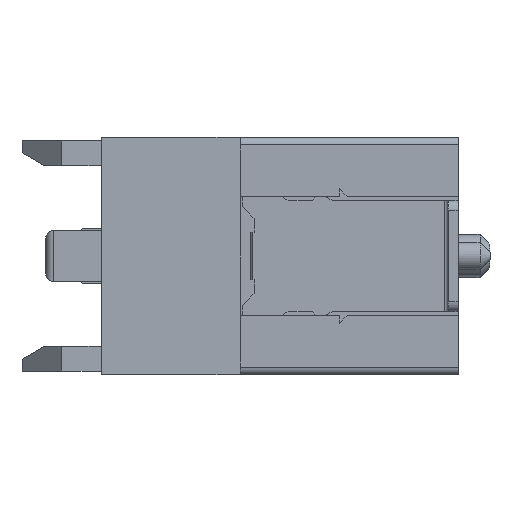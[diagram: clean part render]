
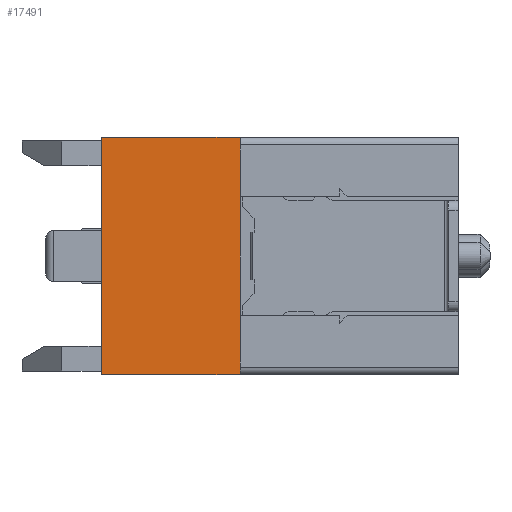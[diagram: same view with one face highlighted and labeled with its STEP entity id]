
A CAD part, left-side view. The second image highlights one B-rep face of the part: STEP entity #17491.
In plain terms, the highlighted planar face has unit normal (-1, 0, 0).
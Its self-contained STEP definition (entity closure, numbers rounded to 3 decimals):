
#39 = LINE ( 'NONE', #15047, #3822 ) ;
#365 = CARTESIAN_POINT ( 'NONE',  ( -18.55, 5.5, -9.338 ) ) ;
#3822 = VECTOR ( 'NONE', #17763, 1000. ) ;
#4642 = AXIS2_PLACEMENT_3D ( 'NONE', #365, #5804, #21670 ) ;
#5613 = DIRECTION ( 'NONE',  ( 0., 1., 0. ) ) ;
#5804 = DIRECTION ( 'NONE',  ( 1., 0., 0. ) ) ;
#5937 = VECTOR ( 'NONE', #19798, 1000. ) ;
#6690 = ORIENTED_EDGE ( 'NONE', *, *, #10208, .T. ) ;
#6709 = CARTESIAN_POINT ( 'NONE',  ( -18.55, 9., -3. ) ) ;
#7366 = EDGE_CURVE ( 'NONE', #16952, #22765, #18727, .T. ) ;
#9341 = ORIENTED_EDGE ( 'NONE', *, *, #20195, .F. ) ;
#10208 = EDGE_CURVE ( 'NONE', #16952, #14684, #18441, .T. ) ;
#13810 = EDGE_CURVE ( 'NONE', #14684, #19360, #31752, .T. ) ;
#14684 = VERTEX_POINT ( 'NONE', #26505 ) ;
#15047 = CARTESIAN_POINT ( 'NONE',  ( -18.55, 9., -9.338 ) ) ;
#16952 = VERTEX_POINT ( 'NONE', #19287 ) ;
#17179 = VECTOR ( 'NONE', #18579, 1000. ) ;
#17491 = ADVANCED_FACE ( 'NONE', ( #31300 ), #22134, .F. ) ;
#17763 = DIRECTION ( 'NONE',  ( 0., 0., 1. ) ) ;
#18441 = LINE ( 'NONE', #29128, #17179 ) ;
#18579 = DIRECTION ( 'NONE',  ( 0., 0., 1. ) ) ;
#18727 = LINE ( 'NONE', #33110, #34770 ) ;
#19287 = CARTESIAN_POINT ( 'NONE',  ( -18.55, 5.5, -3. ) ) ;
#19360 = VERTEX_POINT ( 'NONE', #27766 ) ;
#19677 = CARTESIAN_POINT ( 'NONE',  ( -18.55, 5.5, 3. ) ) ;
#19798 = DIRECTION ( 'NONE',  ( 0., 1., 0. ) ) ;
#20195 = EDGE_CURVE ( 'NONE', #22765, #19360, #39, .T. ) ;
#21670 = DIRECTION ( 'NONE',  ( 0., 0., -1. ) ) ;
#22134 = PLANE ( 'NONE',  #4642 ) ;
#22463 = ORIENTED_EDGE ( 'NONE', *, *, #13810, .T. ) ;
#22613 = ORIENTED_EDGE ( 'NONE', *, *, #7366, .F. ) ;
#22765 = VERTEX_POINT ( 'NONE', #6709 ) ;
#26505 = CARTESIAN_POINT ( 'NONE',  ( -18.55, 5.5, 3. ) ) ;
#27427 = EDGE_LOOP ( 'NONE', ( #6690, #22463, #9341, #22613 ) ) ;
#27766 = CARTESIAN_POINT ( 'NONE',  ( -18.55, 9., 3. ) ) ;
#29128 = CARTESIAN_POINT ( 'NONE',  ( -18.55, 5.5, -9.338 ) ) ;
#31300 = FACE_OUTER_BOUND ( 'NONE', #27427, .T. ) ;
#31752 = LINE ( 'NONE', #19677, #5937 ) ;
#33110 = CARTESIAN_POINT ( 'NONE',  ( -18.55, 5.5, -3. ) ) ;
#34770 = VECTOR ( 'NONE', #5613, 1000. ) ;
